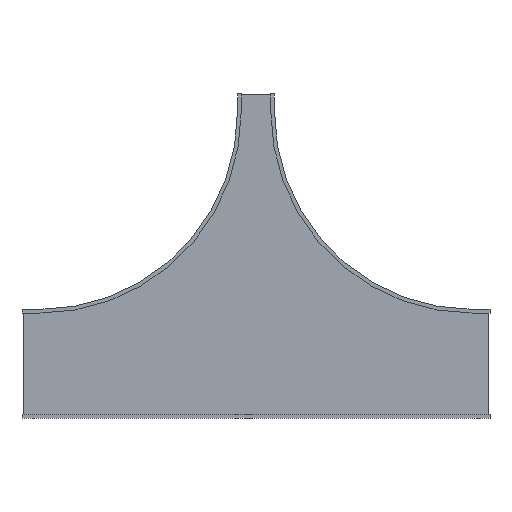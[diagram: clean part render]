
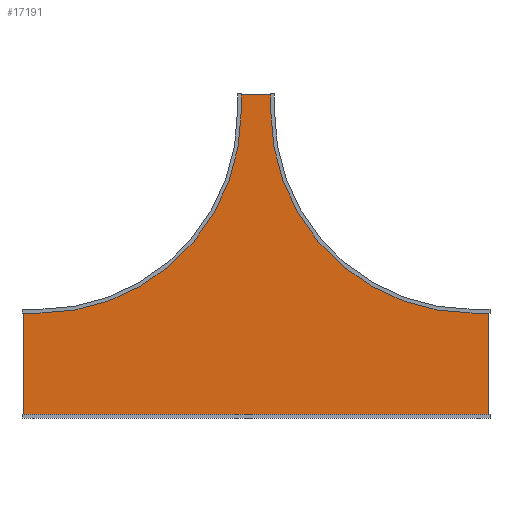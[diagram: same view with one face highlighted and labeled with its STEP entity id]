
A CAD part, front view. The second image highlights one B-rep face of the part: STEP entity #17191.
In plain terms, the highlighted planar face has unit normal (0, -1, 0).
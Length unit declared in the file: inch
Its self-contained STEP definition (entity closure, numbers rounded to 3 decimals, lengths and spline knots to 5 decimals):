
#17000=DIRECTION('',(1.,0.,0.));
#17001=VECTOR('',#17000,5.875);
#17002=CARTESIAN_POINT('',(-2.9375,0.,0.));
#17003=LINE('',#17002,#17001);
#17004=DIRECTION('',(0.,0.,-1.));
#17005=VECTOR('',#17004,2.875);
#17006=CARTESIAN_POINT('',(2.9375,0.,0.));
#17007=LINE('',#17006,#17005);
#17008=CARTESIAN_POINT('',(36.,0.,-2.875));
#17009=DIRECTION('',(0.,-1.,0.));
#17010=DIRECTION('',(-1.,0.,0.));
#17011=AXIS2_PLACEMENT_3D('',#17008,#17009,#17010);
#17013=DIRECTION('',(1.,0.,0.));
#17014=VECTOR('',#17013,2.875);
#17015=CARTESIAN_POINT('',(36.,0.,-35.9375));
#17016=LINE('',#17015,#17014);
#17017=DIRECTION('',(0.,0.,-1.));
#17018=VECTOR('',#17017,17.875);
#17019=CARTESIAN_POINT('',(38.875,0.,-35.9375));
#17020=LINE('',#17019,#17018);
#17021=DIRECTION('',(-1.,0.,0.));
#17022=VECTOR('',#17021,77.75);
#17023=CARTESIAN_POINT('',(38.875,0.,-53.8125));
#17024=LINE('',#17023,#17022);
#17025=DIRECTION('',(0.,0.,1.));
#17026=VECTOR('',#17025,17.875);
#17027=CARTESIAN_POINT('',(-38.875,0.,-53.8125));
#17028=LINE('',#17027,#17026);
#17029=DIRECTION('',(1.,0.,0.));
#17030=VECTOR('',#17029,2.875);
#17031=CARTESIAN_POINT('',(-38.875,0.,-35.9375));
#17032=LINE('',#17031,#17030);
#17033=CARTESIAN_POINT('',(-36.,0.,-2.875));
#17034=DIRECTION('',(0.,-1.,0.));
#17035=DIRECTION('',(0.,0.,-1.));
#17036=AXIS2_PLACEMENT_3D('',#17033,#17034,#17035);
#17038=DIRECTION('',(0.,0.,1.));
#17039=VECTOR('',#17038,2.875);
#17040=CARTESIAN_POINT('',(-2.9375,0.,-2.875));
#17041=LINE('',#17040,#17039);
#17124=CARTESIAN_POINT('',(-2.9375,0.,0.));
#17125=CARTESIAN_POINT('',(2.9375,0.,0.));
#17126=VERTEX_POINT('',#17124);
#17127=VERTEX_POINT('',#17125);
#17128=CARTESIAN_POINT('',(2.9375,0.,-2.875));
#17129=VERTEX_POINT('',#17128);
#17130=CARTESIAN_POINT('',(36.,0.,-35.9375));
#17131=VERTEX_POINT('',#17130);
#17132=CARTESIAN_POINT('',(38.875,0.,-35.9375));
#17133=VERTEX_POINT('',#17132);
#17134=CARTESIAN_POINT('',(38.875,0.,-53.8125));
#17135=VERTEX_POINT('',#17134);
#17136=CARTESIAN_POINT('',(-38.875,0.,-53.8125));
#17137=VERTEX_POINT('',#17136);
#17138=CARTESIAN_POINT('',(-38.875,0.,-35.9375));
#17139=VERTEX_POINT('',#17138);
#17140=CARTESIAN_POINT('',(-36.,0.,-35.9375));
#17141=VERTEX_POINT('',#17140);
#17142=CARTESIAN_POINT('',(-2.9375,0.,-2.875));
#17143=VERTEX_POINT('',#17142);
#17164=CARTESIAN_POINT('',(0.,0.,0.));
#17165=DIRECTION('',(0.,1.,0.));
#17166=DIRECTION('',(1.,0.,0.));
#17167=AXIS2_PLACEMENT_3D('',#17164,#17165,#17166);
#17168=PLANE('',#17167);
#17170=ORIENTED_EDGE('',*,*,#17169,.T.);
#17172=ORIENTED_EDGE('',*,*,#17171,.T.);
#17174=ORIENTED_EDGE('',*,*,#17173,.T.);
#17176=ORIENTED_EDGE('',*,*,#17175,.T.);
#17178=ORIENTED_EDGE('',*,*,#17177,.T.);
#17180=ORIENTED_EDGE('',*,*,#17179,.T.);
#17182=ORIENTED_EDGE('',*,*,#17181,.T.);
#17184=ORIENTED_EDGE('',*,*,#17183,.T.);
#17186=ORIENTED_EDGE('',*,*,#17185,.T.);
#17188=ORIENTED_EDGE('',*,*,#17187,.T.);
#17189=EDGE_LOOP('',(#17170,#17172,#17174,#17176,#17178,#17180,#17182,#17184,
#17186,#17188));
#17190=FACE_OUTER_BOUND('',#17189,.F.);
#17191=ADVANCED_FACE('',(#17190),#17168,.F.);
#17012=CIRCLE('',#17011,33.0625);
#17037=CIRCLE('',#17036,33.0625);
#17169=EDGE_CURVE('',#17126,#17127,#17003,.T.);
#17171=EDGE_CURVE('',#17127,#17129,#17007,.T.);
#17173=EDGE_CURVE('',#17129,#17131,#17012,.T.);
#17175=EDGE_CURVE('',#17131,#17133,#17016,.T.);
#17177=EDGE_CURVE('',#17133,#17135,#17020,.T.);
#17179=EDGE_CURVE('',#17135,#17137,#17024,.T.);
#17181=EDGE_CURVE('',#17137,#17139,#17028,.T.);
#17183=EDGE_CURVE('',#17139,#17141,#17032,.T.);
#17185=EDGE_CURVE('',#17141,#17143,#17037,.T.);
#17187=EDGE_CURVE('',#17143,#17126,#17041,.T.);
